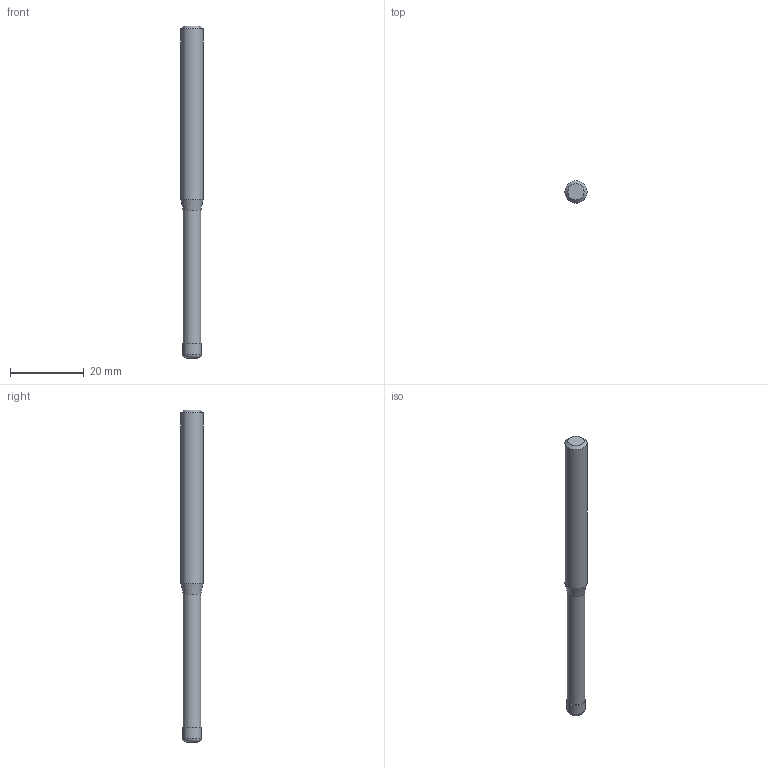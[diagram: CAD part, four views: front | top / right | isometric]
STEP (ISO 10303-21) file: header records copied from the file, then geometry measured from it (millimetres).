
FILE_DESCRIPTION((''),'2;1');
FILE_NAME('C:\Users\nsx150\AppData\Local\Temp\Mastercam 2021\3SYKECWX22\TEMP.step','2021-04-22T09:52:17',(''),(''),'STEP Write','Mastercam 2021 ... CNC Software, Inc.','');
FILE_SCHEMA(('AUTOMOTIVE_DESIGN'));
Length unit declared in the file: millimetre
Products named in the file (1): None
Bounding box: 6 x 6 x 90 mm (x, y, z)
Volume: 2105.5 mm3; surface area: 1606.3 mm2
Topology: 2 solids, 2 shells, 10 faces, 14 edges, 8 vertices
Faces by surface type: plane 4, cylinder 3, cone 2, torus 1
Full cylindrical faces by diameter (mm): 4.75 x1, 5 x1, 6 x1
Entity records: 232 total; most frequent: DIRECTION 40, CARTESIAN_POINT 28, AXIS2_PLACEMENT_3D 20, ORIENTED_EDGE 16, EDGE_LOOP 16, STYLED_ITEM 13, ADVANCED_FACE 10, FACE_BOUND 10
